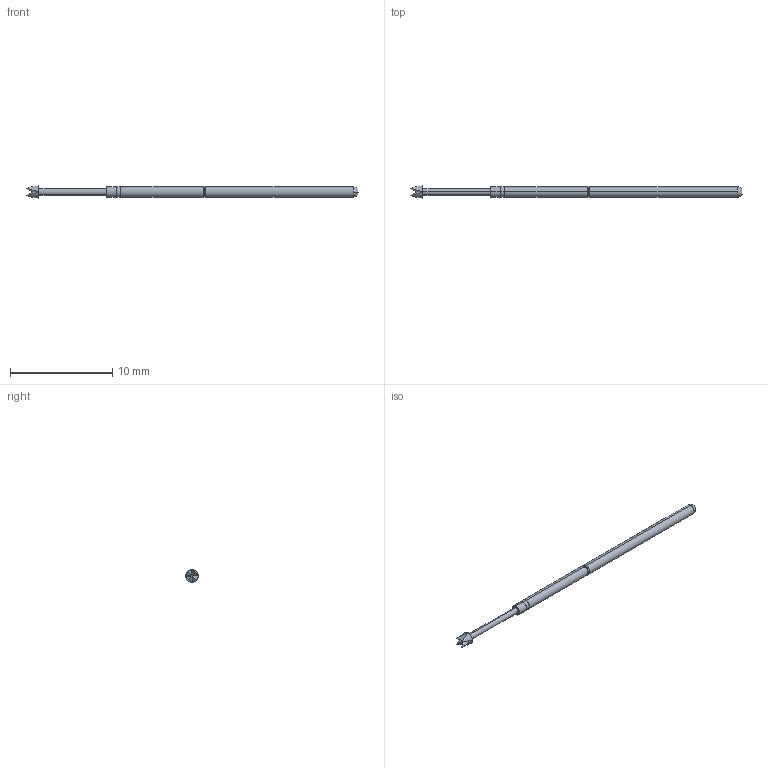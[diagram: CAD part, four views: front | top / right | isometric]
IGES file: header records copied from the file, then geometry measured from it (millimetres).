
Start section: SolidWorks IGES file using analytic representation for surfaces
Global section: file name: Y:\HomeCPG\probe solid model mockups\Solidworks models\Non-catalog IGES files\SPL-01L-039 IGES files\SPL-01L-039.IGS; native system: SolidWorks 2006 by SolidWorks Corporation; preprocessor: SolidWorks 2006 by SolidWorks Corporation; author: tsakatani; date: 080131.110801; units: inch
Bounding box: 32.51 x 1.19 x 1.19 mm (x, y, z)
Surface area: 98.3 mm2 (no closed solid volume)
Topology: 0 solids, 0 shells, 33 faces, 226 edges, 226 vertices
Faces by surface type: revolution 18, bspline 15
